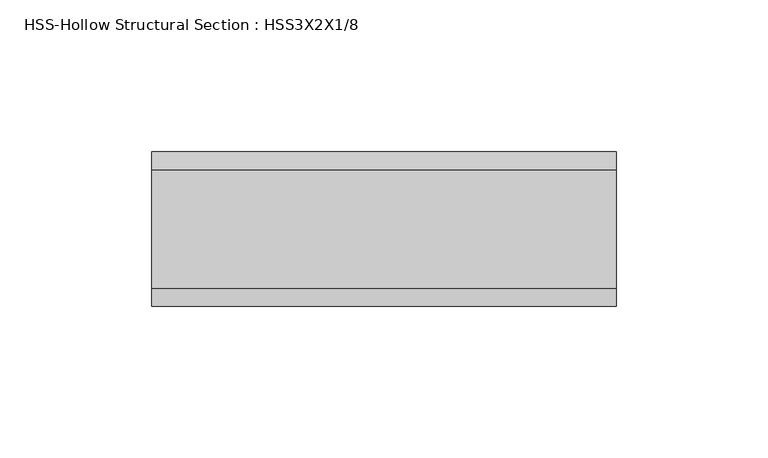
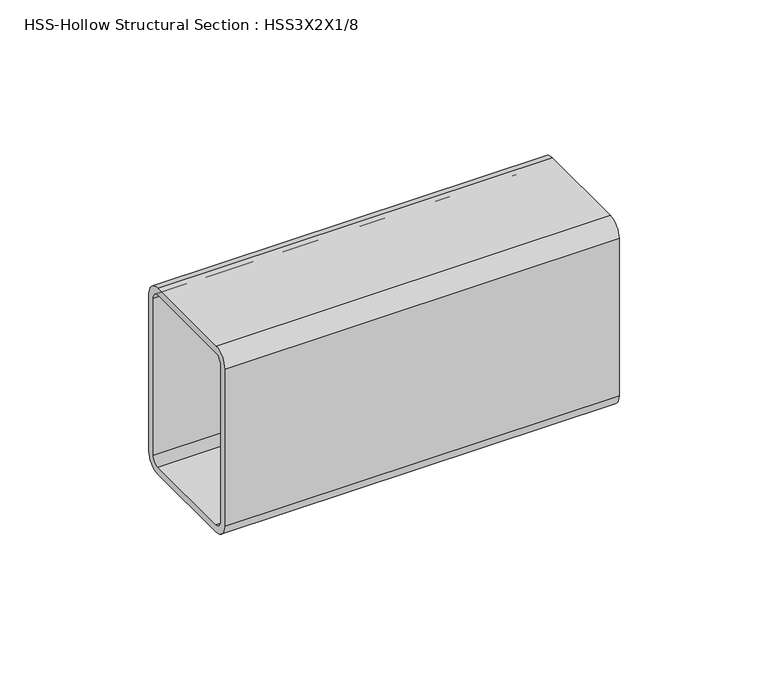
"""IFC4 building model written with IfcOpenShell, lengths in millimetres: beam geometry, HSS-Hollow Structural Section : HSS3X2X1/8."""

from ifc_helpers import new_model, si_unit, point, frame, frame_2d, origin, place, context, project, spatial, polyline, circle_curve, trimmed, segment, composite_curve, outline, extrude, source, transform, mapped, element, save


def hss_hollow_structural_section_hss3x2x1_8_9bae5ac0(model_context):
    return source(origin(), model_context, "Body", "SweptSolid", [
        extrude(outline(composite_curve([segment(polyline([(25.4, 32.2072), (25.4, -32.2072)]), True, "CONTINUOUS"), segment(trimmed(circle_curve(frame_2d((19.5072, -32.2072)), 5.8928), [point((25.4, -32.2072))], [point((19.5072, -38.1))], False, "CARTESIAN"), True, "CONTINUOUS"), segment(polyline([(19.5072, -38.1), (-19.5072, -38.1)]), True, "CONTINUOUS"), segment(trimmed(circle_curve(frame_2d((-19.5072, -32.2072)), 5.8928), [point((-19.5072, -38.1))], [point((-25.4, -32.2072))], False, "CARTESIAN"), True, "CONTINUOUS"), segment(polyline([(-25.4, -32.2072), (-25.4, 32.2072)]), True, "CONTINUOUS"), segment(trimmed(circle_curve(frame_2d((-19.5072, 32.2072)), 5.8928), [point((-25.4, 32.2072))], [point((-19.5072, 38.1))], False, "CARTESIAN"), True, "CONTINUOUS"), segment(polyline([(-19.5072, 38.1), (19.5072, 38.1)]), True, "CONTINUOUS"), segment(trimmed(circle_curve(frame_2d((19.5072, 32.2072)), 5.8928), [point((19.5072, 38.1))], [point((25.4, 32.2072))], False, "CARTESIAN"), True, "CONTINUOUS")], self_intersect=False), holes=[composite_curve([segment(trimmed(circle_curve(frame_2d((-19.5072, 32.2072)), 2.9464), [point((-19.5072, 35.1536))], [point((-22.4536, 32.2072))], True, "CARTESIAN"), True, "CONTINUOUS"), segment(polyline([(-22.4536, 32.2072), (-22.4536, -32.2072)]), True, "CONTINUOUS"), segment(trimmed(circle_curve(frame_2d((-19.5072, -32.2072)), 2.9464), [point((-22.4536, -32.2072))], [point((-19.5072, -35.1536))], True, "CARTESIAN"), True, "CONTINUOUS"), segment(polyline([(-19.5072, -35.1536), (19.5072, -35.1536)]), True, "CONTINUOUS"), segment(trimmed(circle_curve(frame_2d((19.5072, -32.2072)), 2.9464), [point((19.5072, -35.1536))], [point((22.4536, -32.2072))], True, "CARTESIAN"), True, "CONTINUOUS"), segment(polyline([(22.4536, -32.2072), (22.4536, 32.2072)]), True, "CONTINUOUS"), segment(trimmed(circle_curve(frame_2d((19.5072, 32.2072)), 2.9464), [point((22.4536, 32.2072))], [point((19.5072, 35.1536))], True, "CARTESIAN"), True, "CONTINUOUS"), segment(polyline([(19.5072, 35.1536), (-19.5072, 35.1536)]), True, "CONTINUOUS")], self_intersect=False)]), frame((-38.608, 0.0, 0.0), z_axis=(1.0, 0.0, 0.0), x_axis=(0.0, 1.0, 0.0)), (0.0, 0.0, 1.0), 152.908),
    ])


if __name__ == "__main__":
    model = new_model("IFC4")
    model_context = context("Model", 3, world=origin())
    ifc_project = project(units=[si_unit("LENGTHUNIT", "METRE", prefix="MILLI")], contexts=[model_context])
    site = spatial("IfcSite", under=ifc_project)
    building = spatial("IfcBuilding", under=site)
    placement = place(None, origin())
    hss_hollow_structural_section_hss3x2x1_8_shape = hss_hollow_structural_section_hss3x2x1_8_9bae5ac0(model_context)
    element("IfcBeam", 1, ObjectType="HSS-Hollow Structural Section : HSS3X2X1/8", at=placement, inside=building, context=model_context, shape_type="MappedRepresentation", body=[
        mapped(hss_hollow_structural_section_hss3x2x1_8_shape, transform((0.0, 0.0, 0.0), x_axis=(1.0, 0.0, 0.0), y_axis=(0.0, 1.0, 0.0), z_axis=(0.0, 0.0, 1.0))),
    ])
    save(model, "model.ifc")
